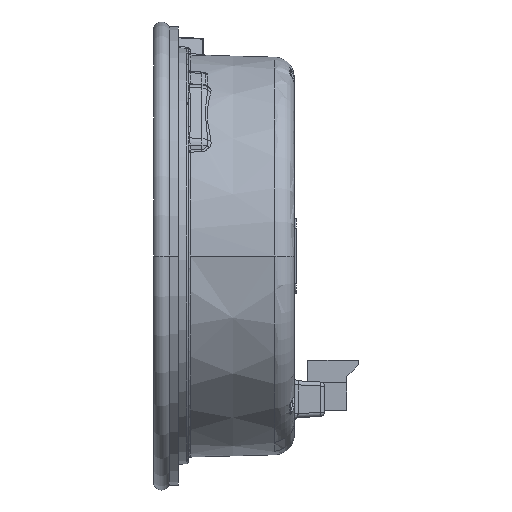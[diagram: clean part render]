
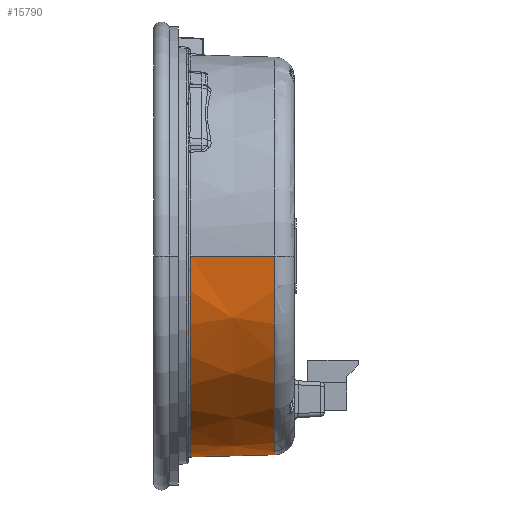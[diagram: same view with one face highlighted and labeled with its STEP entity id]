
A CAD part, left-side view. The second image highlights one B-rep face of the part: STEP entity #15790.
In plain terms, the highlighted conical face has half-angle 1.5 degrees and reference radius 25.285 mm.
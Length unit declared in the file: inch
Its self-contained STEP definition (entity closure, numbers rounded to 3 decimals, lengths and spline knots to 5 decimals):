
#3333=DIRECTION('',(-0.026,0.,-1.));
#3334=VECTOR('',#3333,0.42002);
#3335=CARTESIAN_POINT('',(1.00096,0.,-0.09974));
#3336=LINE('',#3335,#3334);
#5840=CARTESIAN_POINT('',(0.,0.,-0.09974));
#5841=DIRECTION('',(0.,0.,1.));
#5842=DIRECTION('',(-1.,0.,0.));
#5843=AXIS2_PLACEMENT_3D('',#5840,#5841,#5842);
#5845=CARTESIAN_POINT('',(0.,0.,-0.51962));
#5846=DIRECTION('',(0.,0.,1.));
#5847=DIRECTION('',(-1.,0.,0.));
#5848=AXIS2_PLACEMENT_3D('',#5845,#5846,#5847);
#5850=DIRECTION('',(0.026,0.,-1.));
#5851=VECTOR('',#5850,0.42002);
#5852=CARTESIAN_POINT('',(-1.00096,0.,-0.09974));
#5853=LINE('',#5852,#5851);
#8297=CARTESIAN_POINT('',(0.98996,0.,-0.51962));
#8298=CARTESIAN_POINT('',(-0.98996,0.,-0.51962));
#8299=VERTEX_POINT('',#8297);
#8300=VERTEX_POINT('',#8298);
#8391=CARTESIAN_POINT('',(-1.00096,0.,-0.09974));
#8392=VERTEX_POINT('',#8391);
#8393=CARTESIAN_POINT('',(1.00096,0.,-0.09974));
#8394=VERTEX_POINT('',#8393);
#15779=CARTESIAN_POINT('',(0.,0.,-0.30968));
#15780=DIRECTION('',(0.,0.,1.));
#15781=DIRECTION('',(0.,1.,0.));
#15782=AXIS2_PLACEMENT_3D('',#15779,#15780,#15781);
#15783=CONICAL_SURFACE('',#15782,0.99546,1.5);
#15784=ORIENTED_EDGE('',*,*,#15768,.T.);
#15785=ORIENTED_EDGE('',*,*,#11266,.T.);
#15786=ORIENTED_EDGE('',*,*,#9625,.F.);
#15787=ORIENTED_EDGE('',*,*,#11263,.F.);
#15788=EDGE_LOOP('',(#15784,#15785,#15786,#15787));
#15789=FACE_OUTER_BOUND('',#15788,.F.);
#15790=ADVANCED_FACE('',(#15789),#15783,.T.);
#5844=CIRCLE('',#5843,1.00096);
#5849=CIRCLE('',#5848,0.98996);
#9625=EDGE_CURVE('',#8300,#8299,#5849,.T.);
#11263=EDGE_CURVE('',#8392,#8300,#5853,.T.);
#11266=EDGE_CURVE('',#8394,#8299,#3336,.T.);
#15768=EDGE_CURVE('',#8392,#8394,#5844,.T.);
